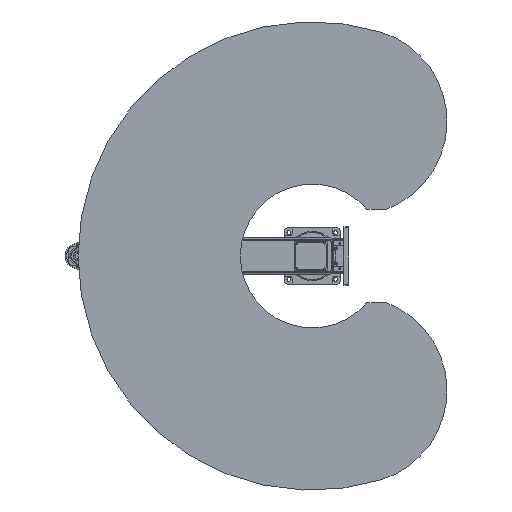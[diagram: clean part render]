
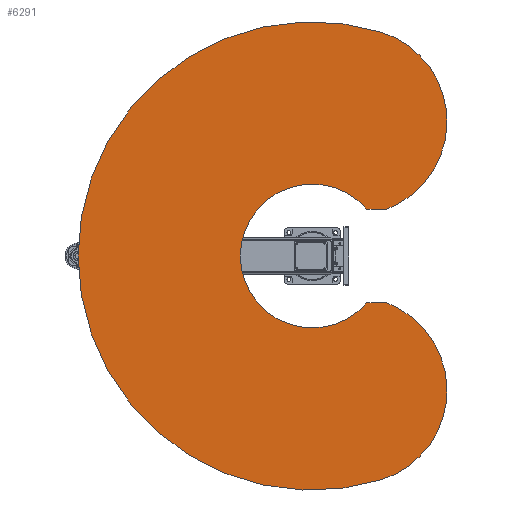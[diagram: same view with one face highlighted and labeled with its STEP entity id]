
A CAD part, front view. The second image highlights one B-rep face of the part: STEP entity #6291.
In plain terms, the highlighted planar face has unit normal (0, -1, 0).
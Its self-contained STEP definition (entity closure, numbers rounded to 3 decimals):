
#6291 = ADVANCED_FACE( '', ( #14040 ), #14041, .F. );
#14040 = FACE_OUTER_BOUND( '', #23525, .T. );
#14041 = PLANE( '', #23526 );
#23525 = EDGE_LOOP( '', ( #41463, #41464, #41465, #41466, #41467, #41468 ) );
#23526 = AXIS2_PLACEMENT_3D( '', #41469, #41470, #41471 );
#41463 = ORIENTED_EDGE( '', *, *, #49606, .F. );
#41464 = ORIENTED_EDGE( '', *, *, #47832, .F. );
#41465 = ORIENTED_EDGE( '', *, *, #50204, .T. );
#41466 = ORIENTED_EDGE( '', *, *, #49990, .F. );
#41467 = ORIENTED_EDGE( '', *, *, #54593, .F. );
#41468 = ORIENTED_EDGE( '', *, *, #53773, .F. );
#41469 = CARTESIAN_POINT( '', ( 573.783, 0., 175.423 ) );
#41470 = DIRECTION( '', ( 0., 1., 0. ) );
#41471 = DIRECTION( '', ( 0., 0., 1. ) );
#47832 = EDGE_CURVE( '', #56095, #56096, #56097, .T. );
#49606 = EDGE_CURVE( '', #56096, #59204, #59205, .T. );
#49990 = EDGE_CURVE( '', #59858, #59859, #59860, .T. );
#50204 = EDGE_CURVE( '', #56095, #59859, #60202, .T. );
#53773 = EDGE_CURVE( '', #59204, #65499, #65500, .T. );
#54593 = EDGE_CURVE( '', #65499, #59858, #66542, .T. );
#56095 = VERTEX_POINT( '', #68308 );
#56096 = VERTEX_POINT( '', #68309 );
#56097 = LINE( '', #68310, #68311 );
#59204 = VERTEX_POINT( '', #73213 );
#59205 = CIRCLE( '', #73214, 400. );
#59858 = VERTEX_POINT( '', #74327 );
#59859 = VERTEX_POINT( '', #74328 );
#59860 = LINE( '', #74329, #74330 );
#60202 = CIRCLE( '', #74936, 307. );
#65499 = VERTEX_POINT( '', #83909 );
#65500 = CIRCLE( '', #83910, 1000. );
#66542 = CIRCLE( '', #85839, 400. );
#68308 = CARTESIAN_POINT( '', ( 200., 0., 232.914 ) );
#68309 = CARTESIAN_POINT( '', ( 200., 0., 317.853 ) );
#68310 = CARTESIAN_POINT( '', ( 200., 0., 232.914 ) );
#68311 = VECTOR( '', #88201, 1000. );
#73213 = CARTESIAN_POINT( '', ( 956.305, 0., 292.372 ) );
#73214 = AXIS2_PLACEMENT_3D( '', #90548, #90549, #90550 );
#74327 = CARTESIAN_POINT( '', ( -200., 0., 317.853 ) );
#74328 = CARTESIAN_POINT( '', ( -200., 0., 232.914 ) );
#74329 = CARTESIAN_POINT( '', ( -200., 0., 317.853 ) );
#74330 = VECTOR( '', #91018, 1000. );
#74936 = AXIS2_PLACEMENT_3D( '', #91239, #91240, #91241 );
#83909 = CARTESIAN_POINT( '', ( -956.305, 0., 292.372 ) );
#83910 = AXIS2_PLACEMENT_3D( '', #95542, #95543, #95544 );
#85839 = AXIS2_PLACEMENT_3D( '', #96325, #96326, #96327 );
#88201 = DIRECTION( '', ( 0., 0., 1. ) );
#90548 = CARTESIAN_POINT( '', ( 573.783, 0., 175.423 ) );
#90549 = DIRECTION( '', ( 0., 1., 0. ) );
#90550 = DIRECTION( '', ( 1., 0., 0. ) );
#91018 = DIRECTION( '', ( 0., 0., -1. ) );
#91239 = CARTESIAN_POINT( '', ( 0., 0., 0. ) );
#91240 = DIRECTION( '', ( 0., 1., 0. ) );
#91241 = DIRECTION( '', ( 1., 0., 0. ) );
#95542 = CARTESIAN_POINT( '', ( 0., 0., 0. ) );
#95543 = DIRECTION( '', ( 0., 1., 0. ) );
#95544 = DIRECTION( '', ( 1., 0., 0. ) );
#96325 = CARTESIAN_POINT( '', ( -573.783, 0., 175.423 ) );
#96326 = DIRECTION( '', ( 0., 1., 0. ) );
#96327 = DIRECTION( '', ( 1., 0., 0. ) );
